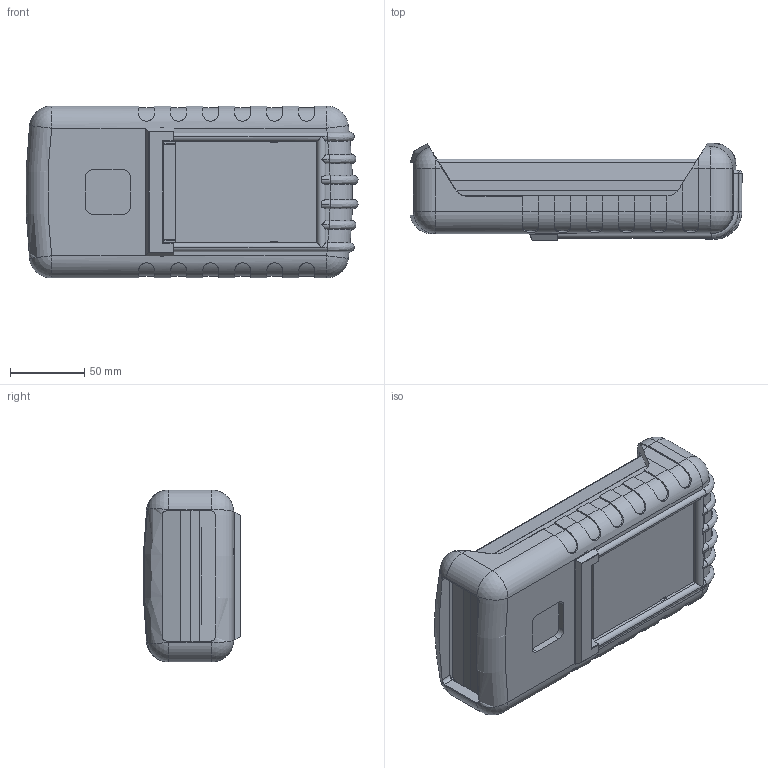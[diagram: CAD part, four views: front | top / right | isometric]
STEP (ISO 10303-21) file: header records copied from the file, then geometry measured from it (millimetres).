
FILE_DESCRIPTION (( 'STEP AP214' ), '1' );
FILE_NAME ('100-42-29V-E-F.STEP', '2020-11-20T14:45:37', ( 'Rudy' ), ( '' ), 'SwSTEP 2.0', 'SolidWorks 2016', '' );
FILE_SCHEMA (( 'AUTOMOTIVE_DESIGN' ));
Length unit declared in the file: inch
Products named in the file (7): 100 RBE; 100-2-9V-4AA PCB; 29V door; 100-06 EXPANDER; 100-04-flush Top; 100-02 BOT-29V; 100-42-29V-E-F
Assembly tree (6 placements, depth 2):
  100-42-29V-E-F
    100-02 BOT-29V
    100-04-flush Top
    100-06 EXPANDER
    29V door
    100-2-9V-4AA PCB
    100 RBE
Bounding box: 223.76 x 65.38 x 115.87 mm (x, y, z)
Volume: 418775.8 mm3; surface area: 272100.3 mm2
Topology: 6 solids, 6 shells, 1259 faces, 3379 edges, 2122 vertices
Faces by surface type: plane 654, cylinder 444, bspline 65, cone 46, torus 38, sphere 12
Entity records: 42690 total; most frequent: CARTESIAN_POINT 11818, ORIENTED_EDGE 6674, DIRECTION 5940, EDGE_CURVE 3337, LINE 2124, VECTOR 2124, VERTEX_POINT 2114, AXIS2_PLACEMENT_3D 1908
